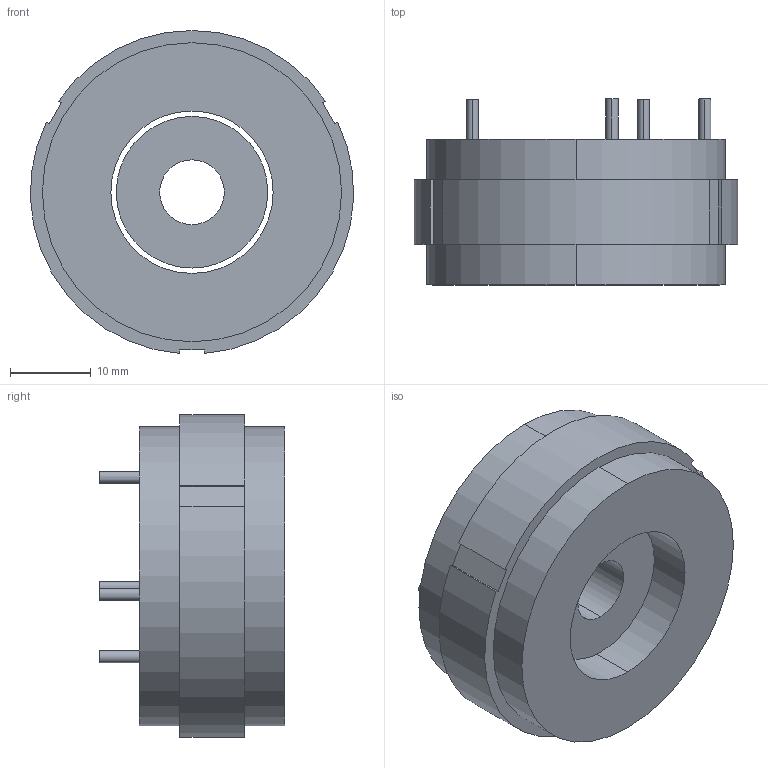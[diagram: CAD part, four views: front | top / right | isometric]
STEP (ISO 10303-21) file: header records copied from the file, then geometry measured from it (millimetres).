
FILE_DESCRIPTION (( 'STEP AP203' ), '1' );
FILE_NAME ('TM40-17 KIT 3D.STEP', '2023-02-08T06:29:31', ( '' ), ( '' ), 'SwSTEP 2.0', 'SolidWorks 2021', '' );
FILE_SCHEMA (( 'CONFIG_CONTROL_DESIGN' ));
Length unit declared in the file: millimetre
Products named in the file (1): TM40-17 KIT 3D
Bounding box: 39.97 x 23 x 39.94 mm (x, y, z)
Volume: 17047.1 mm3; surface area: 6464 mm2
Topology: 2 solids, 2 shells, 40 faces, 90 edges, 60 vertices
Faces by surface type: cylinder 21, plane 19
Entity records: 1219 total; most frequent: DIRECTION 214, CARTESIAN_POINT 191, ORIENTED_EDGE 180, EDGE_CURVE 90, AXIS2_PLACEMENT_3D 83, VERTEX_POINT 60, EDGE_LOOP 50, LINE 48
